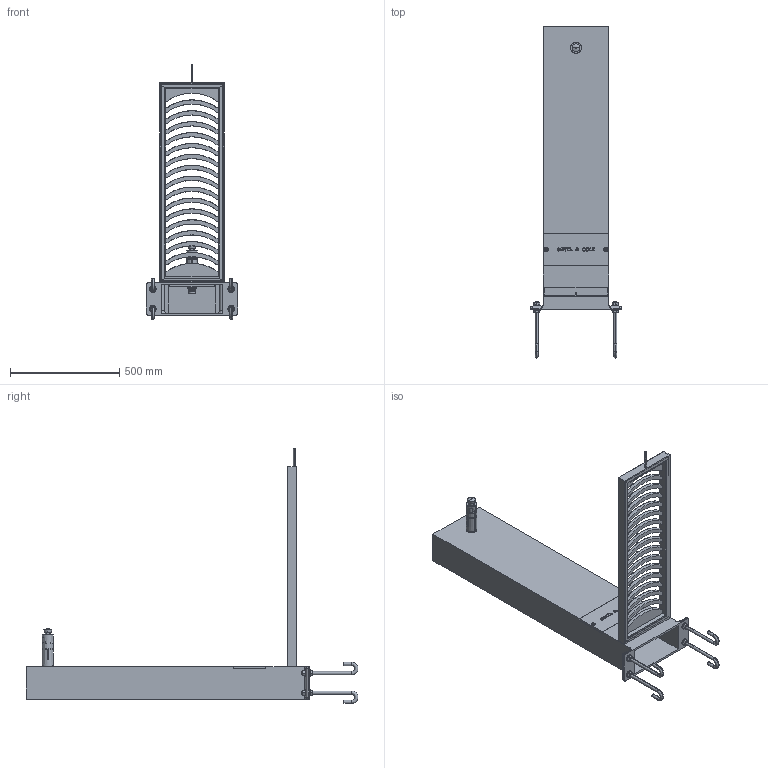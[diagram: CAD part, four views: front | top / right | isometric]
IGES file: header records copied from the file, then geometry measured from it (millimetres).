
Start section: SolidWorks IGES file using analytic representation for surfaces
Global section: file name: C:\SANTACOLE_PDM\Proyectos Catálogo\PROD-P08-025 -- ATLÁNTIDA\6_Técnico comercial\3D WEB\Fuente Atlantida.IGS; native system: SolidWorks 2013; preprocessor: SolidWorks 2013; author: jordi.munoz; date: 150724.101030; units: millimetre
Bounding box: 420 x 1522.47 x 1169.5 mm (x, y, z)
Surface area: 3433118.8 mm2 (no closed solid volume)
Topology: 0 solids, 0 shells, 1889 faces, 17865 edges, 17849 vertices
Faces by surface type: bspline 1444, revolution 445
